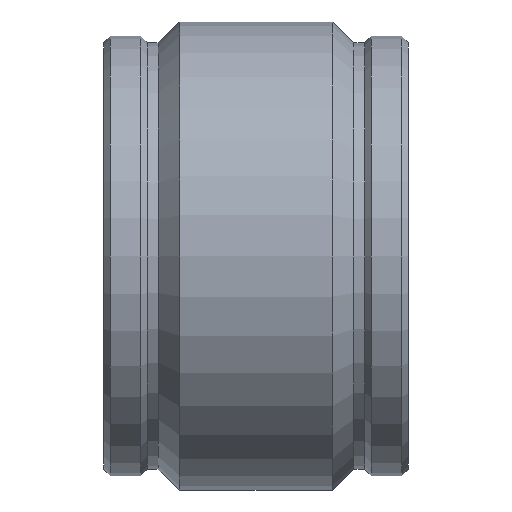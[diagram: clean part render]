
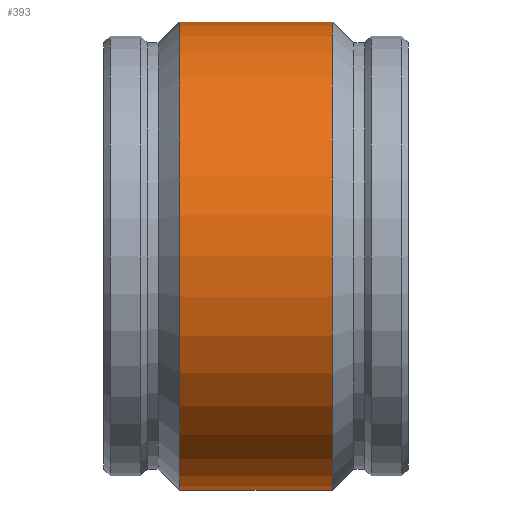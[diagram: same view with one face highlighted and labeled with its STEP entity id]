
A CAD part, front view. The second image highlights one B-rep face of the part: STEP entity #393.
In plain terms, the highlighted cylindrical face has radius 215 mm (diameter 430 mm), a full revolution.
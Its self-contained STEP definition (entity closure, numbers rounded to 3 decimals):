
#44=FACE_BOUND('',#149,.T.);
#69=CYLINDRICAL_SURFACE('',#448,215.);
#95=FACE_OUTER_BOUND('',#148,.T.);
#148=EDGE_LOOP('',(#326));
#149=EDGE_LOOP('',(#327));
#201=CIRCLE('',#447,215.);
#202=CIRCLE('',#449,215.);
#237=VERTEX_POINT('',#746);
#238=VERTEX_POINT('',#749);
#273=EDGE_CURVE('',#237,#237,#201,.T.);
#274=EDGE_CURVE('',#238,#238,#202,.T.);
#326=ORIENTED_EDGE('',*,*,#273,.T.);
#327=ORIENTED_EDGE('',*,*,#274,.F.);
#393=ADVANCED_FACE('',(#95,#44),#69,.T.);
#447=AXIS2_PLACEMENT_3D('',#747,#553,#554);
#448=AXIS2_PLACEMENT_3D('',#748,#555,#556);
#449=AXIS2_PLACEMENT_3D('',#750,#557,#558);
#553=DIRECTION('center_axis',(1.,0.,0.));
#554=DIRECTION('ref_axis',(0.,0.,-1.));
#555=DIRECTION('center_axis',(1.,0.,0.));
#556=DIRECTION('ref_axis',(0.,1.,0.));
#557=DIRECTION('center_axis',(1.,0.,0.));
#558=DIRECTION('ref_axis',(0.,0.,-1.));
#746=CARTESIAN_POINT('',(-70.,215.,0.));
#747=CARTESIAN_POINT('Origin',(-70.,0.,0.));
#748=CARTESIAN_POINT('Origin',(0.,0.,0.));
#749=CARTESIAN_POINT('',(70.,215.,0.));
#750=CARTESIAN_POINT('Origin',(70.,0.,0.));
